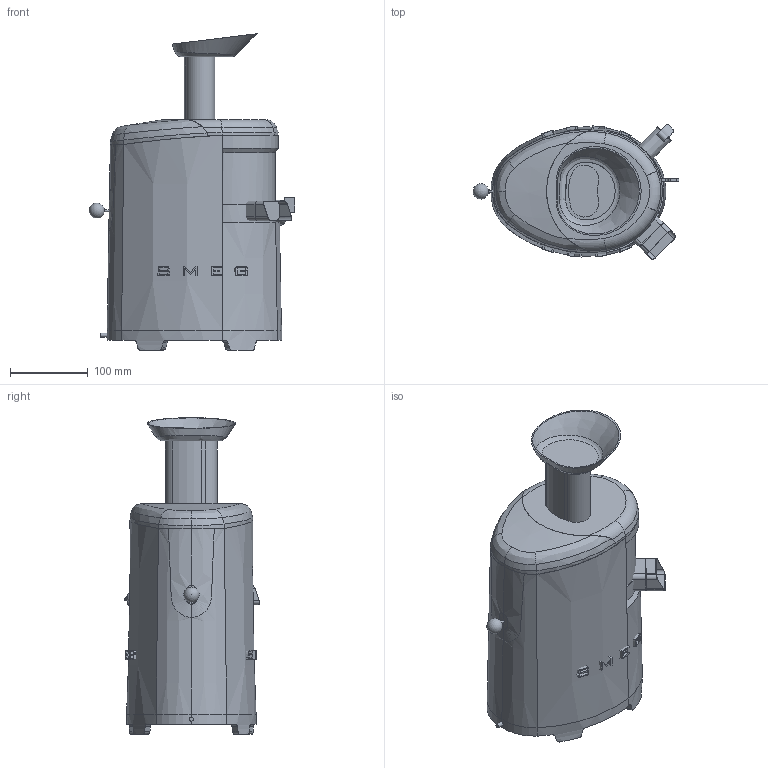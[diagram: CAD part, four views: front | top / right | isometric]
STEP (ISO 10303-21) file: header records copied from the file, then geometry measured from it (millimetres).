
FILE_DESCRIPTION(/* description */ (''),/* implementation_level */ '2;1');
FILE_NAME(/* name */ 'estrattore di succo sjf01.stp',/* time_stamp */ '2018-09-20T12:29:12+02:00',/* author */ (''),/* organization */ (''),/* preprocessor_version */ 'ST-DEVELOPER v16',/* originating_system */ 'SIEMENS PLM Software NX 11.0',/* authorisation */ '');
FILE_SCHEMA (('AUTOMOTIVE_DESIGN { 1 0 10303 214 3 1 1 1 }'));
Length unit declared in the file: millimetre
Products named in the file (1): gobb80D85F20cgnc
Bounding box: 265.69 x 174.11 x 408.42 mm (x, y, z)
Volume: 8934171.7 mm3; surface area: 610502.7 mm2
Topology: 20 solids, 20 shells, 329 faces, 834 edges, 546 vertices
Faces by surface type: plane 176, cylinder 72, extrusion 27, cone 26, bspline 22, torus 5, sphere 1
Full cylindrical faces by diameter (mm): 3 x1, 5 x1, 134 x1, 136 x1, 142 x1
Entity records: 13755 total; most frequent: CARTESIAN_POINT 6454, ORIENTED_EDGE 1620, DIRECTION 1193, EDGE_CURVE 810, VERTEX_POINT 537, AXIS2_PLACEMENT_3D 441, B_SPLINE_CURVE_WITH_KNOTS 393, EDGE_LOOP 347
